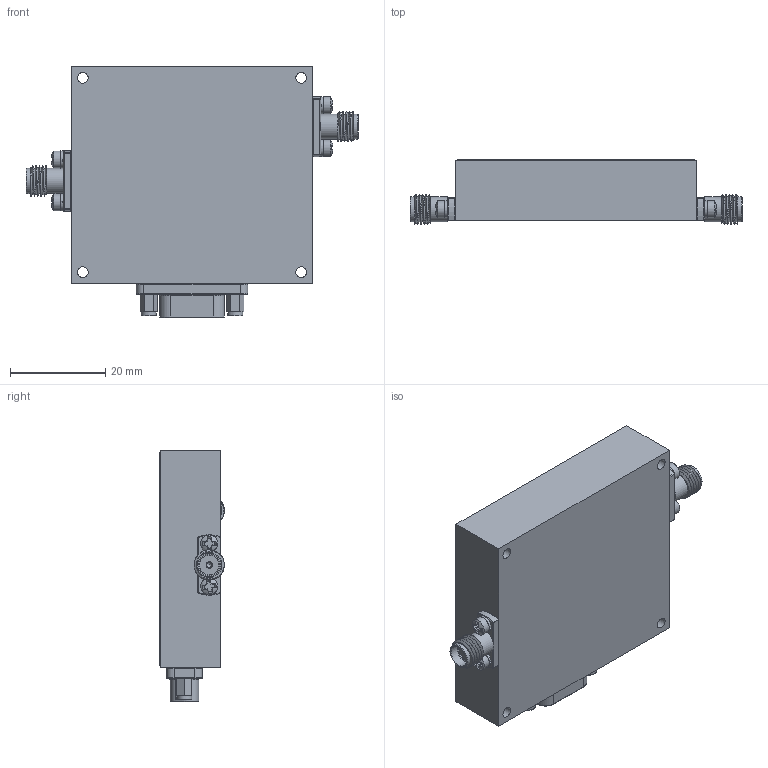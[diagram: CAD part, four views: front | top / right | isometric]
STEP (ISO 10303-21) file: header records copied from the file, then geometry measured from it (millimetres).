
FILE_DESCRIPTION (( 'STEP AP214' ), '1' );
FILE_NAME ('PDVAN-5010-60-8.STEP', '2024-02-16T20:15:22', ( '' ), ( '' ), 'SwSTEP 2.0', 'SolidWorks 2023', '' );
FILE_SCHEMA (( 'AUTOMOTIVE_DESIGN' ));
Length unit declared in the file: inch
Products named in the file (1): PDVAN-5010-60-8
Bounding box: 69.85 x 13.61 x 52.86 mm (x, y, z)
Volume: 31058.9 mm3; surface area: 14510.2 mm2
Topology: 17 solids, 17 shells, 1025 faces, 3818 edges, 3018 vertices
Faces by surface type: plane 497, cylinder 264, cone 127, bspline 71, torus 46, sphere 20
Full cylindrical faces by diameter (mm): 0.305 x4, 0.559 x17, 0.584 x15, 0.838 x30, 1.016 x3, 1.27 x2, 1.783 x20, 2.184 x4, 2.261 x4, 2.362 x2, 2.591 x4, 3.15 x2, 3.302 x2, 3.556 x4, 4.191 x4, 4.597 x2, 5.283 x4
Entity records: 67726 total; most frequent: CARTESIAN_POINT 24881, ORIENTED_EDGE 6786, DIRECTION 4934, EDGE_CURVE 3393, VERTEX_POINT 2850, AXIS2_PLACEMENT_3D 1680, VECTOR 1574, LINE 1574
